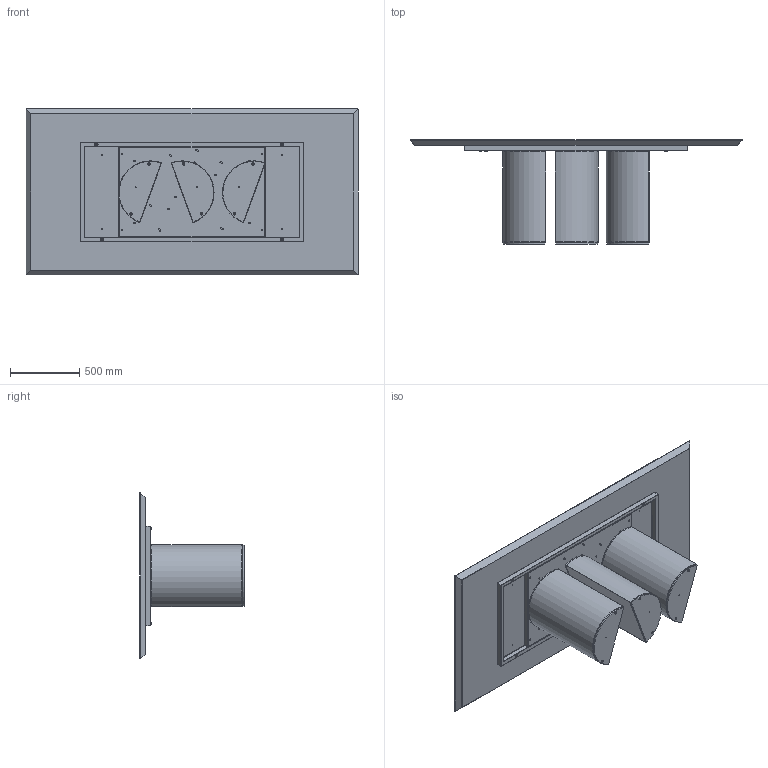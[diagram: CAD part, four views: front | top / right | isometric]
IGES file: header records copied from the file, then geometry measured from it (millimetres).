
Start section: SolidWorks IGES file using analytic representation for surfaces
Global section: file name: Y:\eforma\TECNICO\SOLIDWORKS\E-FORMA\1-TAVOLI\PLAI\02 parts\PL23W.IGS; native system: SolidWorks 2022; preprocessor: SolidWorks 2022; author: eforma.tech; date: 240807.155325; units: millimetre
Bounding box: 2400 x 752 x 1200 mm (x, y, z)
Volume: 117814469.4 mm3; surface area: 14532579.7 mm2
Topology: 44 solids, 44 shells, 1300 faces, 2948 edges, 1699 vertices
Faces by surface type: revolution 785, plane 515
